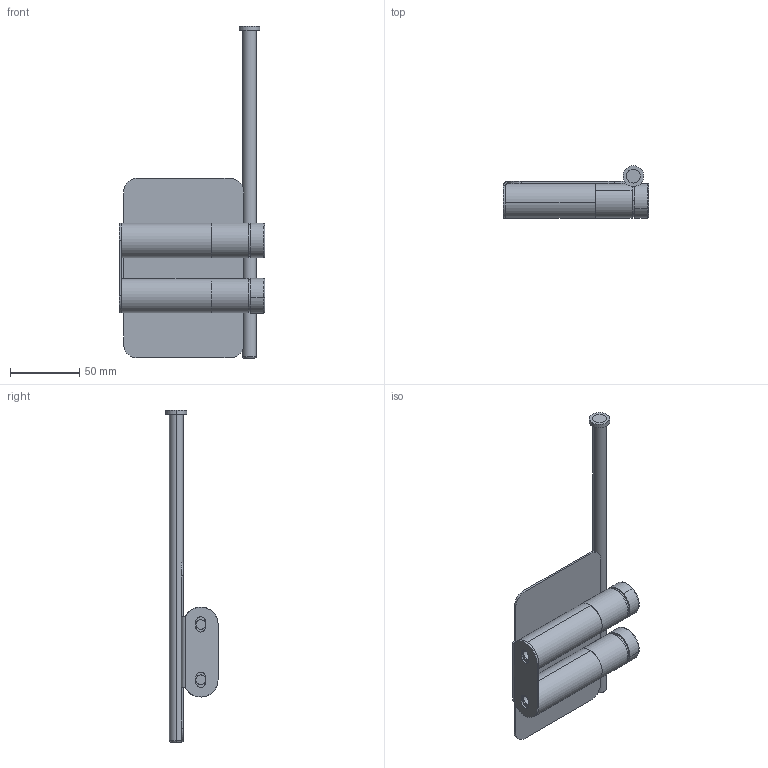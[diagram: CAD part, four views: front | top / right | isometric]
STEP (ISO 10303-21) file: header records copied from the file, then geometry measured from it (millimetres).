
FILE_DESCRIPTION (( 'STEP AP214' ), '1' );
FILE_NAME ('Uchwyt na papier toaletowy z pó³k¹ SERANI.STEP', '2024-10-03T09:22:38', ( '' ), ( '' ), 'SwSTEP 2.0', 'SolidWorks 2021', '' );
FILE_SCHEMA (( 'AUTOMOTIVE_DESIGN' ));
Length unit declared in the file: millimetre
Products named in the file (9): Uchwyt na papier toaletowy z pó³k¹ SERANI; Dystans monta¿owy; 03-010-0240-W-01-01; Przed逝磬a M10; 02-014-0400-W-00-02; 03-010-0240-W-00-01; Œruba M10; 03-010-0240-W-01-00; 03-009-0192-W-00-02
Assembly tree (12 placements, depth 3):
  Uchwyt na papier toaletowy z pó³k¹ SERANI
    03-010-0240-W-01-00
      03-010-0240-W-01-01
      02-014-0400-W-00-02  x2
      03-009-0192-W-00-02
    03-010-0240-W-00-01
    Dystans monta¿owy  x2
    Przed逝磬a M10  x2
    Œruba M10  x2
Bounding box: 105 x 37.66 x 240 mm (x, y, z)
Volume: 130063.9 mm3; surface area: 66144.8 mm2
Topology: 11 solids, 11 shells, 276 faces, 700 edges, 454 vertices
Faces by surface type: cylinder 174, plane 66, bspline 30, torus 6
Entity records: 12597 total; most frequent: CARTESIAN_POINT 8793, ORIENTED_EDGE 804, DIRECTION 649, EDGE_CURVE 402, VERTEX_POINT 260, AXIS2_PLACEMENT_3D 252, EDGE_LOOP 174, ADVANCED_FACE 160
